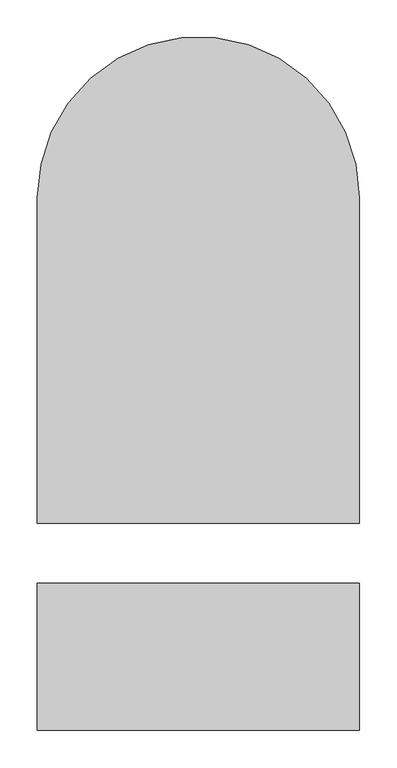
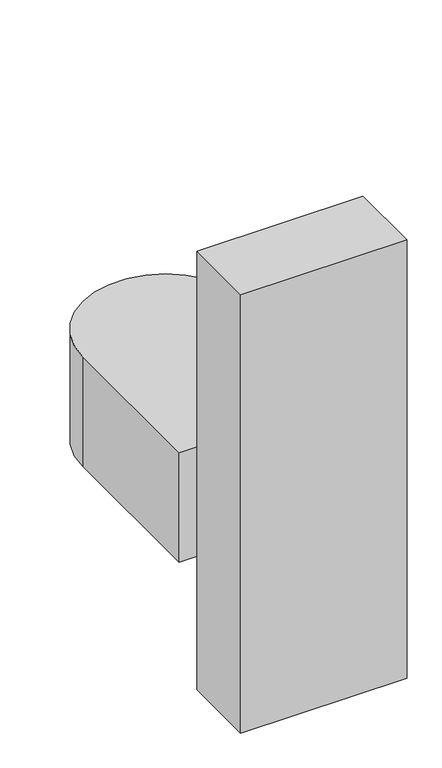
"""IFC4 building model written with IfcOpenShell, lengths in millimetres: flow terminal geometry, SP_унитаз подвесной : SP_унитаз подвесной."""

from ifc_helpers import new_model, si_unit, point, frame, frame_2d, origin, origin_with_axes, place, context, project, spatial, polyline, circle_curve, trimmed, segment, composite_curve, outline, extrude, source, transform, mapped, element, save


def flow_terminal_e882d1db(model_context):
    return source(origin(), model_context, "Body", "SweptSolid", [
        extrude(outline(composite_curve([segment(polyline([(215.0, 433.7931803), (215.0, 0.0), (-215.0, 0.0), (-215.0, 433.7931803)]), True, "CONTINUOUS"), segment(trimmed(circle_curve(frame_2d((0.0, 433.7931803)), 215.0), [point((-215.0, 433.7931803))], [point((215.0, 433.7931803))], False, "CARTESIAN"), True, "CONTINUOUS")], self_intersect=False)), frame((0.0, 0.0, 300.0), z_axis=(0.0, 0.0, 1.0), x_axis=(1.0, 0.0, 0.0)), (0.0, 0.0, 1.0), 300.0),
        extrude(outline(polyline([(215.0, -80.0), (215.0, -276.4970657), (-215.0, -276.4970657), (-215.0, -80.0), (215.0, -80.0)])), origin_with_axes(), (0.0, 0.0, 1.0), 1200.0),
    ])


if __name__ == "__main__":
    model = new_model("IFC4")
    model_context = context("Model", 3, world=origin())
    ifc_project = project(units=[si_unit("LENGTHUNIT", "METRE", prefix="MILLI")], contexts=[model_context])
    site = spatial("IfcSite", under=ifc_project)
    building = spatial("IfcBuilding", under=site)
    placement = place(None, origin())
    flow_terminal_shape = flow_terminal_e882d1db(model_context)
    element("IfcFlowTerminal", 1, ObjectType="SP_унитаз подвесной : SP_унитаз подвесной", at=placement, inside=building, context=model_context, shape_type="MappedRepresentation", body=[
        mapped(flow_terminal_shape, transform((0.0, 0.0, 0.0), x_axis=(1.0, 0.0, 0.0), y_axis=(0.0, 1.0, 0.0), z_axis=(0.0, 0.0, 1.0))),
    ])
    save(model, "model.ifc")
